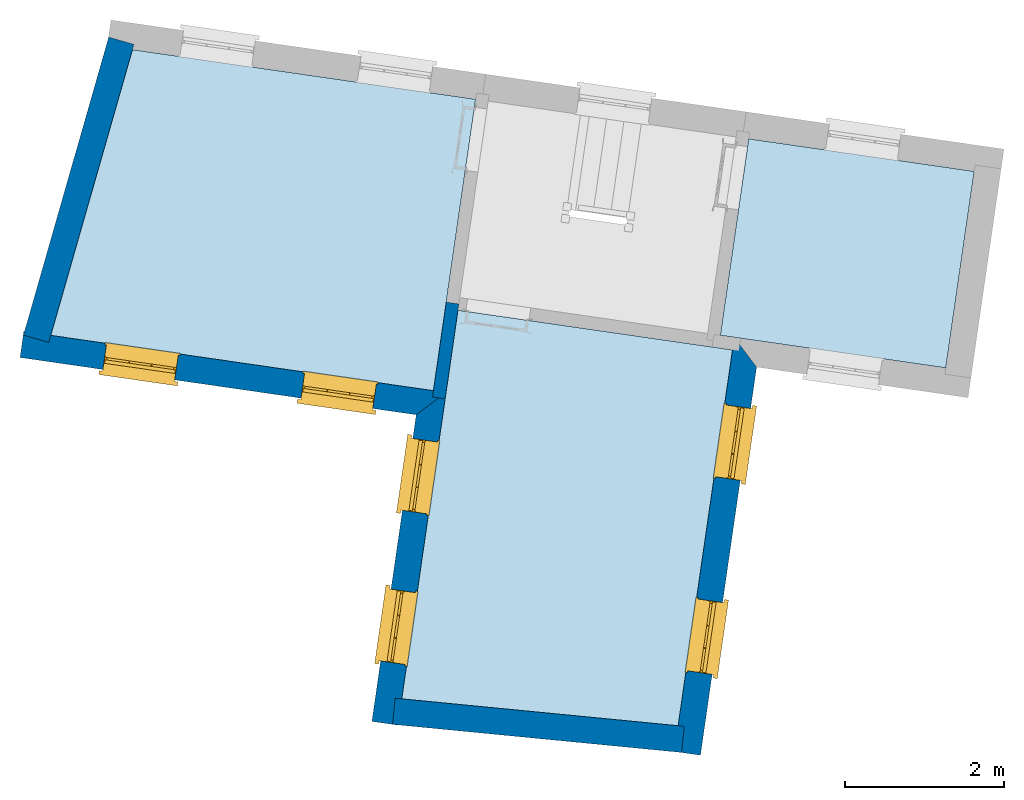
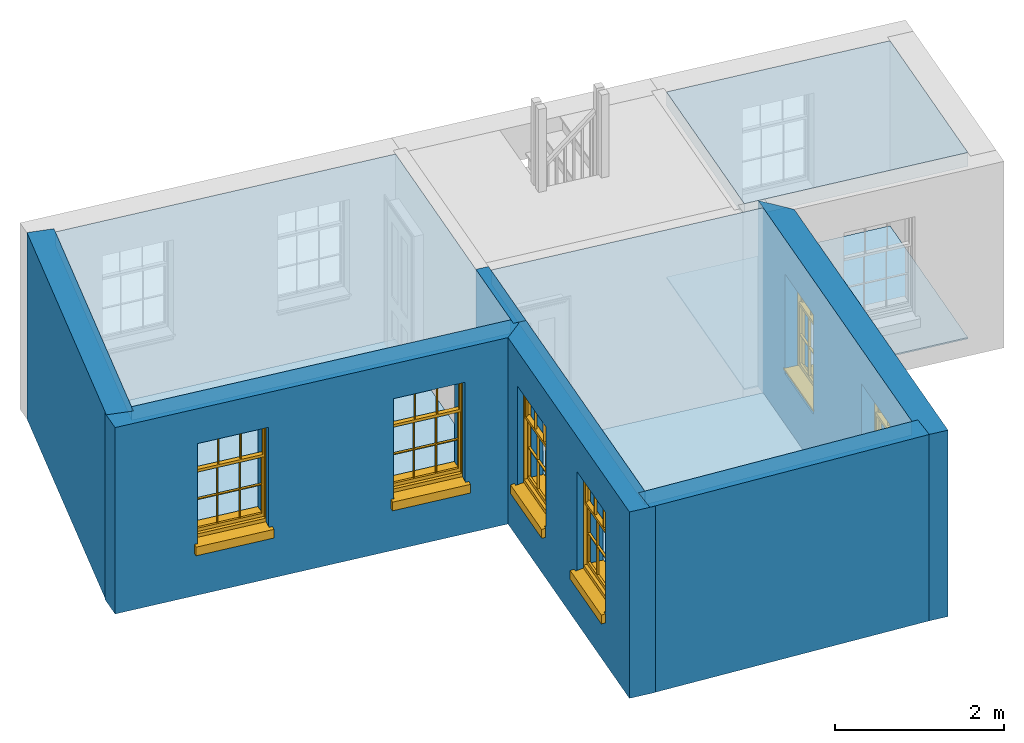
# One storey, part 1 of 4: 6 slabs, 6 walls, 6 windows, 6 openings.
"""IFC4 building model written with IfcOpenShell, lengths in metres."""

from ifc_helpers import new_model, si_unit, frame, origin, origin_with_axes, place, context, subcontext, project, spatial, polyline, outline, extrude, faceted_brep, source, transform, mapped, material, layer, layer_set, layer_usage, type_object, type_shapes, element, fill, save


model = new_model("IFC4")

# Units and contexts
model_context = context("Model", 3, world=origin_with_axes())
body_context = subcontext(model_context, "Body", "Model", "MODEL_VIEW")
ifc_project = project(units=[si_unit("PLANEANGLEUNIT", "RADIAN"), si_unit("MASSUNIT", "GRAM", prefix="KILO"), si_unit("FORCEUNIT", "NEWTON", prefix="KILO"), si_unit("LENGTHUNIT", "METRE"), si_unit("AREAUNIT", "SQUARE_METRE"), si_unit("VOLUMEUNIT", "CUBIC_METRE")], contexts=[model_context, model_context])

# Sites, building, storey
site_1_placement = place(None, origin_with_axes())
site_1 = spatial("IfcSite", under=ifc_project, at=site_1_placement, Name="Tamar")
site_2_placement = place(site_1_placement, origin_with_axes())
site_2 = spatial("IfcSite", under=site_1, at=site_2_placement, Name="Site plot-30", CompositionType="ELEMENT")
building_placement = place(None, origin_with_axes())
building = spatial("IfcBuilding", under=site_2, at=building_placement, Name="Building plot-30", CompositionType="ELEMENT")
storey_placement = place(None, frame((0.0, 0.0, 28.3), z_axis=(0.0, 0.0, 1.0), x_axis=(1.0, 0.0, 0.0)))
storey = spatial("IfcBuildingStorey", under=building, at=storey_placement, Name="plot-30 1", CompositionType="ELEMENT", Elevation=28.3)

# Slabs
slab_1_placement = place(storey_placement, frame((289.361802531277, 260.474647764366, 2.5)))
element("IfcSlab", 1, at=slab_1_placement, inside=storey, Name="My Slab", ObjectType="Slab", PredefinedType="FLOOR", context=body_context, shape_type="SweptSolid", body=[
    extrude(outline(polyline([(0.0, 0.0), (2.82705422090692, -0.408814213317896), (3.18333463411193, 2.05495542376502), (0.356280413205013, 2.46376963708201), (0.0, 0.0)])), origin_with_axes(), (0.0, 0.0, 1.0), 0.2),
])
slab_2_placement = place(storey_placement, frame((289.361802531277, 260.474647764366, 0.0)))
element("IfcSlab", 2, at=slab_2_placement, inside=storey, Name="My Slab", ObjectType="Slab", PredefinedType="FLOOR", context=body_context, shape_type="SweptSolid", body=[
    extrude(outline(polyline([(0.0, 0.0), (2.82705422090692, -0.408814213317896), (3.18333463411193, 2.05495542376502), (0.356280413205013, 2.46376963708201), (0.0, 0.0)])), origin_with_axes(), (0.0, 0.0, 1.0), 0.02),
])
slab_3_placement = place(storey_placement, frame((285.367224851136, 255.915943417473, 2.5)))
element("IfcSlab", 3, at=slab_3_placement, inside=storey, Name="My Slab", ObjectType="Slab", PredefinedType="FLOOR", context=body_context, shape_type="SweptSolid", body=[
    extrude(outline(polyline([(0.0, 0.0), (3.46581022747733, -0.337085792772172), (4.14721019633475, 4.37496822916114), (0.704643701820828, 4.87279034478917), (0.0, 0.0)])), origin_with_axes(), (0.0, 0.0, 1.0), 0.2),
])
slab_4_placement = place(storey_placement, frame((285.367224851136, 255.915943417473, 0.0)))
element("IfcSlab", 4, at=slab_4_placement, inside=storey, Name="My Slab", ObjectType="Slab", PredefinedType="FLOOR", context=body_context, shape_type="SweptSolid", body=[
    extrude(outline(polyline([(0.0, 0.0), (3.46581022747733, -0.337085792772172), (4.14721019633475, 4.37496822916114), (0.704643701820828, 4.87279034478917), (0.0, 0.0)])), origin_with_axes(), (0.0, 0.0, 1.0), 0.02),
])
slab_5_placement = place(storey_placement, frame((285.764302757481, 259.77978754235, 2.5)))
element("IfcSlab", 5, at=slab_5_placement, inside=storey, Name="My Slab", ObjectType="Slab", PredefinedType="FLOOR", context=body_context, shape_type="SweptSolid", body=[
    extrude(outline(polyline([(0.0, 0.0), (0.528392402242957, 3.6539677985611), (-3.77388996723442, 4.2761115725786), (-4.79887291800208, 0.693954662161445), (0.0, 0.0)])), origin_with_axes(), (0.0, 0.0, 1.0), 0.2),
])
slab_6_placement = place(storey_placement, frame((285.764302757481, 259.77978754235, 0.0)))
element("IfcSlab", 6, at=slab_6_placement, inside=storey, Name="My Slab", ObjectType="Slab", PredefinedType="FLOOR", context=body_context, shape_type="SweptSolid", body=[
    extrude(outline(polyline([(0.0, 0.0), (0.528392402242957, 3.6539677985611), (-3.77388996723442, 4.2761115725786), (-4.79887291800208, 0.693954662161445), (0.0, 0.0)])), origin_with_axes(), (0.0, 0.0, 1.0), 0.02),
])

# Wall, openings, windows
ifc_material_1 = material(Name="Masonry")
ifc_layer_1 = layer(ifc_material_1, 0.33, ventilated=False)
ifc_layer_set_1 = layer_set([ifc_layer_1], Name="exterior_0.08_0.25")
ifc_layer_usage_1 = layer_usage(ifc_layer_set_1, "AXIS2", "POSITIVE", -0.25)
wall_type_1 = type_object("IfcWallType", Name="exterior_0.08_0.25", PredefinedType="SOLIDWALL", material=ifc_layer_set_1)
wall_1_placement = place(storey_placement, frame((288.901284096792, 255.491842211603, 0.0), z_axis=(0.0, 0.0, 1.0), x_axis=(0.143119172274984, 0.989705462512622, 0.0)))
wall_1 = element("IfcWall", 7, at=wall_1_placement, inside=storey, type_object=wall_type_1, material=ifc_layer_usage_1, Name="exterior", context=body_context, shape_type="SweptSolid", body=[
    extrude(outline(polyline([(-0.250000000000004, 0.0800000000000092), (-0.249999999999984, -0.249999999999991), (4.66741889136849, -0.249999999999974), (4.9974188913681, 0.0800000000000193), (-0.250000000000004, 0.0800000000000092)])), origin_with_axes(), (0.0, 0.0, 1.0), 2.7),
])
opening_1_placement = place(wall_1_placement, frame((0.774354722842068, 0.0, 0.75)))
opening_1 = element("IfcOpeningElement", 8, at=opening_1_placement, cuts=wall_1, Name="My Opening", ObjectType="Opening", context=body_context, shape_type="SweptSolid", body=[
    extrude(outline(polyline([(0.0, -0.270000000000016), (0.909999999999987, -0.269999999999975), (0.909999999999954, 1.10000000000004), (-3.33066907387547e-14, 1.1), (0.0, -0.270000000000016)])), origin_with_axes(), (0.0, 0.0, 1.0), 1.445),
])
opening_2_placement = place(wall_1_placement, frame((3.23306416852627, 0.0, 0.75)))
opening_2 = element("IfcOpeningElement", 9, at=opening_2_placement, cuts=wall_1, Name="My Opening", ObjectType="Opening", context=body_context, shape_type="SweptSolid", body=[
    extrude(outline(polyline([(0.0, -0.270000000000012), (0.909999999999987, -0.269999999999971), (0.909999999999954, 1.10000000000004), (-3.37507799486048e-14, 1.1), (0.0, -0.270000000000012)])), origin_with_axes(), (0.0, 0.0, 1.0), 1.445),
])
window_type = type_object("IfcWindowType", Name="sash_shorter", PartitioningType="DOUBLE_PANEL_HORIZONTAL", PredefinedType="NOTDEFINED")
shared_shape = source(origin(), body_context, "Body", "Brep", [
    faceted_brep([(0.876875, 0.145, 0.999097), (0.876875, 0.145, 1.411875), (0.9, 0.145, 1.435), (0.033125, 0.145, 1.411875), (0.033125, 0.145, 0.999097), (0.01, 0.145, 1.435), (0.033125, 0.115, 1.411875), (0.01, 0.115, 1.435), (0.033125, 0.115, 0.999097), (0.876875, 0.115, 1.411875), (0.876875, 0.115, 0.999097), (0.9, 0.115, 1.435), (0.033125, 0.145, 0.960972), (0.01, 0.145, 0.960972), (0.033125, 0.145, 0.548195), (0.876875, 0.145, 0.960972), (0.876875, 0.145, 0.548195), (0.9, 0.145, 0.960972), (0.876875, 0.145, 0.538195), (0.876875, 0.145, 0.125417), (0.9, 0.145, 0.077167), (0.033125, 0.145, 0.125417), (0.033125, 0.145, 0.538195), (0.01, 0.145, 0.077167), (0.9, 0.115, 0.960972), (0.01, 0.115, 0.960972), (-0.0425, 0.0, 0.01), (-0.0425, -0.05, 0.001667), (0.0, 0.0, 0.01), (0.9525, 0.0, 0.01), (0.91, 0.0, 0.01), (0.9525, -0.05, 0.001667), (-0.02, 0.33, 0.077167), (0.0, 0.33, 0.077167), (-0.02, 0.36, 0.077167), (0.0, 0.19, 0.077167), (0.01, 0.19, 0.077167), (0.91, 0.19, 0.077167), (0.91, 0.33, 0.077167), (0.9, 0.19, 0.077167), (0.93, 0.33, 0.077167), (0.93, 0.36, 0.077167), (0.01, 0.145, 0.999097), (0.01, 0.175, 0.999097), (0.9, 0.145, 0.999097), (0.9, 0.175, 0.999097), (0.876875, 0.175, 0.125417), (0.876875, 0.175, 0.538195), (0.9, 0.175, 0.077167), (0.876875, 0.175, 0.548195), (0.876875, 0.175, 0.960972), (0.033125, 0.175, 0.125417), (0.01, 0.175, 0.077167), (0.033125, 0.175, 0.538195), (0.033125, 0.175, 0.960972), (0.033125, 0.175, 0.548195), (-0.02, 0.33, 0.052167), (-0.02, 0.36, 0.052167), (0.93, 0.36, 0.052167), (0.93, 0.33, 0.052167), (0.91, 0.33, 0.052167), (0.0, 0.33, 0.052167), (0.91, 0.1, 0.026667), (0.0, 0.1, 0.026667), (-0.0425, -0.05, -0.123333), (0.9525, -0.05, -0.123333), (-0.0425, 0.0, -0.123333), (0.9525, 0.0, -0.123333), (0.01, 0.19, 1.435), (0.9, 0.19, 1.435), (0.0, 0.19, 1.445), (0.91, 0.19, 1.445), (0.01, 0.1, 0.077167), (0.9, 0.1, 0.077167), (0.592292, 0.145, 0.125417), (0.592292, 0.175, 0.125417), (0.317708, 0.175, 0.125417), (0.317708, 0.145, 0.125417), (0.592292, 0.145, 0.548195), (0.317708, 0.145, 0.548195), (0.317708, 0.145, 0.538195), (0.592292, 0.145, 0.538195), (0.592292, 0.175, 0.548195), (0.317708, 0.175, 0.548195), (0.602292, 0.175, 0.548195), (0.602292, 0.145, 0.548195), (0.317708, 0.175, 0.538195), (0.307708, 0.175, 0.125417), (0.307708, 0.175, 0.538195), (0.602292, 0.175, 0.538195), (0.602292, 0.175, 0.125417), (0.592292, 0.175, 0.538195), (0.307708, 0.175, 0.548195), (0.317708, 0.175, 0.960972), (0.307708, 0.175, 0.960972), (0.602292, 0.175, 0.960972), (0.592292, 0.175, 0.960972), (0.307708, 0.145, 0.538195), (0.307708, 0.145, 0.125417), (0.307708, 0.145, 0.548195), (0.307708, 0.145, 0.960972), (0.592292, 0.145, 0.960972), (0.317708, 0.145, 0.960972), (0.602292, 0.145, 0.960972), (0.602292, 0.145, 0.538195), (0.602292, 0.145, 0.125417), (0.317708, 0.115, 1.411875), (0.307708, 0.115, 1.411875), (0.307708, 0.115, 0.999097), (0.317708, 0.115, 0.999097), (0.602292, 0.115, 1.411875), (0.592292, 0.115, 1.411875), (0.592292, 0.115, 0.999097), (0.602292, 0.115, 0.999097), (0.317708, 0.145, 0.999097), (0.307708, 0.145, 0.999097), (0.307708, 0.145, 1.411875), (0.317708, 0.145, 1.411875), (0.602292, 0.145, 0.999097), (0.592292, 0.145, 0.999097), (0.592292, 0.145, 1.411875), (0.602292, 0.145, 1.411875), (0.91, 0.1, 1.445), (0.9, 0.1, 1.435), (0.01, 0.1, 1.435), (0.0, 0.1, 1.445), (0.91, 0.0, 0.0), (0.0, 0.0, 0.0), (0.91, 0.33, 0.0), (0.0, 0.33, 0.0)], [[[0, 1, 2]], [[3, 4, 5]], [[6, 7, 8]], [[9, 10, 11]], [[12, 13, 14]], [[15, 16, 17]], [[18, 19, 20]], [[21, 22, 23]], [[24, 15, 17]], [[13, 12, 25]], [[26, 27, 28]], [[29, 30, 31]], [[32, 33, 34]], [[35, 36, 33]], [[37, 38, 39]], [[40, 41, 38]], [[42, 4, 43]], [[44, 45, 0]], [[46, 47, 48]], [[49, 50, 45]], [[51, 52, 53]], [[54, 55, 43]], [[38, 33, 36, 39]], [[41, 34, 33, 38]], [[56, 32, 34, 57]], [[57, 34, 41, 58]], [[58, 41, 40, 59]], [[57, 58, 60, 61]], [[52, 48, 39, 36]], [[62, 63, 28, 30]], [[27, 31, 30, 28]], [[27, 64, 65, 31]], [[66, 67, 65, 64]], [[2, 5, 68, 69]], [[68, 70, 71, 69]], [[20, 23, 72, 73]], [[73, 72, 63, 62]], [[74, 75, 76, 77]], [[78, 79, 80, 81]], [[78, 82, 83, 79]], [[16, 49, 84, 85]], [[86, 76, 87, 88]], [[89, 90, 75, 91]], [[92, 88, 53, 55]], [[82, 91, 86, 83]], [[93, 83, 92, 94]], [[95, 84, 82, 96]], [[89, 84, 49, 47]], [[97, 88, 87, 98]], [[22, 53, 88, 97]], [[81, 91, 75, 74]], [[80, 86, 91, 81]], [[77, 76, 86, 80]], [[99, 92, 55, 14]], [[100, 94, 92, 99]], [[101, 96, 82, 78]], [[79, 83, 93, 102]], [[85, 84, 95, 103]], [[104, 89, 47, 18]], [[105, 90, 89, 104]], [[104, 18, 16, 85]], [[80, 97, 98, 77]], [[104, 81, 74, 105]], [[103, 101, 78, 85]], [[99, 14, 22, 97]], [[102, 100, 99, 79]], [[106, 107, 108, 109]], [[110, 111, 112, 113]], [[114, 115, 116, 117]], [[118, 119, 120, 121]], [[107, 116, 115, 108]], [[111, 120, 119, 112]], [[109, 114, 117, 106]], [[113, 118, 121, 110]], [[85, 78, 81, 104]], [[84, 89, 91, 82]], [[83, 86, 88, 92]], [[79, 99, 97, 80]], [[109, 112, 119, 114]], [[102, 93, 96, 101]], [[106, 117, 120, 111]], [[98, 87, 51, 21]], [[6, 3, 116, 107]], [[110, 121, 1, 9]], [[19, 46, 90, 105]], [[26, 66, 64, 27]], [[29, 31, 65, 67]], [[25, 24, 112, 109]], [[11, 7, 106, 111]], [[75, 48, 52, 76]], [[43, 45, 96, 93]], [[45, 43, 114, 119]], [[5, 2, 120, 117]], [[24, 25, 102, 101]], [[42, 5, 4]], [[2, 44, 0]], [[49, 45, 48, 47]], [[52, 43, 55, 53]], [[14, 13, 23, 22]], [[20, 17, 16, 18]], [[24, 11, 10]], [[25, 8, 7]], [[8, 4, 3, 6]], [[9, 1, 0, 10]], [[15, 50, 49, 16]], [[18, 47, 46, 19]], [[21, 51, 53, 22]], [[14, 55, 54, 12]], [[44, 2, 69, 45]], [[68, 5, 42, 43]], [[36, 35, 70, 68]], [[39, 69, 71, 37]], [[62, 122, 123, 73]], [[63, 72, 124, 125]], [[8, 108, 115, 4]], [[113, 10, 0, 118]], [[94, 100, 12, 54]], [[17, 20, 73, 24]], [[72, 23, 13, 25]], [[52, 36, 68, 43]], [[69, 39, 48, 45]], [[11, 24, 73, 123]], [[7, 124, 72, 25]], [[23, 77, 98]], [[98, 21, 23]], [[105, 74, 20]], [[20, 19, 105]], [[20, 74, 77, 23]], [[113, 112, 24]], [[24, 10, 113]], [[25, 109, 108]], [[108, 8, 25]], [[110, 9, 11]], [[11, 111, 110]], [[7, 6, 107]], [[107, 106, 7]], [[5, 117, 116]], [[116, 3, 5]], [[121, 120, 2]], [[2, 1, 121]], [[11, 123, 124, 7]], [[122, 125, 124, 123]], [[43, 93, 94]], [[94, 54, 43]], [[96, 45, 95]], [[50, 95, 45]], [[15, 103, 95, 50]], [[48, 75, 90]], [[90, 46, 48]], [[87, 76, 52]], [[52, 51, 87]], [[103, 15, 24]], [[24, 101, 103]], [[100, 102, 25]], [[25, 12, 100]], [[115, 114, 43]], [[43, 4, 115]], [[118, 0, 45]], [[45, 119, 118]], [[71, 70, 125, 122]], [[70, 35, 63, 125]], [[122, 62, 37, 71]], [[126, 67, 66, 127]], [[60, 58, 59]], [[38, 60, 59, 40]], [[61, 56, 57]], [[32, 56, 61, 33]], [[61, 60, 128, 129]], [[62, 60, 38, 37]], [[126, 128, 60, 62]], [[33, 61, 63, 35]], [[61, 129, 127, 63]], [[128, 126, 127, 129]], [[28, 127, 66, 26]], [[63, 127, 28]], [[29, 67, 126, 30]], [[30, 126, 62]]]),
])
type_shapes(window_type, [shared_shape])
window_1_placement = place(storey_placement, frame((289.279329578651, 256.219583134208, 0.75), z_axis=(0.0, 0.0, 1.0), x_axis=(0.130238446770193, 0.900631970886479, 0.0)))
window_1 = element("IfcWindow", 10, at=window_1_placement, inside=storey, type_object=window_type, Name="bedroom sahn window", OverallHeight=1.445, OverallWidth=0.91, context=body_context, shape_type="MappedRepresentation", body=[
    mapped(shared_shape, transform((0.0, 0.0, 0.0), scale=1.0)),
])
fill(opening_1, window_1)
window_2_placement = place(storey_placement, frame((289.631218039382, 258.652981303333, 0.75), z_axis=(0.0, 0.0, 1.0), x_axis=(0.130238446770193, 0.900631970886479, 0.0)))
window_2 = element("IfcWindow", 11, at=window_2_placement, inside=storey, type_object=window_type, Name="bedroom sahn window", OverallHeight=1.445, OverallWidth=0.91, context=body_context, shape_type="MappedRepresentation", body=[
    mapped(shared_shape, transform((0.0, 0.0, 0.0), scale=1.0)),
])
fill(opening_2, window_2)

wall_2_placement = place(storey_placement, frame((280.863315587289, 260.407676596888, 0.0), z_axis=(0.0, 0.0, 1.0), x_axis=(0.989705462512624, -0.143119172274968, 0.0)))
wall_2 = element("IfcWall", 12, at=wall_2_placement, inside=storey, type_object=wall_type_1, material=ifc_layer_usage_1, Name="exterior", context=body_context, shape_type="SweptSolid", body=[
    extrude(outline(polyline([(-0.249999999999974, 0.0800000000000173), (-0.249999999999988, -0.249999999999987), (4.77039673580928, -0.249999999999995), (5.10039673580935, 0.0800000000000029), (-0.249999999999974, 0.0800000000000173)])), origin_with_axes(), (0.0, 0.0, 1.0), 2.7),
])
opening_3_placement = place(wall_2_placement, frame((0.800099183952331, 0.0, 0.75)))
opening_3 = element("IfcOpeningElement", 13, at=opening_3_placement, cuts=wall_2, Name="My Opening", ObjectType="Opening", context=body_context, shape_type="SweptSolid", body=[
    extrude(outline(polyline([(0.0, -0.269999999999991), (0.909999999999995, -0.27000000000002), (0.909999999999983, 1.09999999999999), (-1.18793863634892e-14, 1.10000000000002), (0.0, -0.269999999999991)])), origin_with_axes(), (0.0, 0.0, 1.0), 1.445),
])
opening_4_placement = place(wall_2_placement, frame((3.31029755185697, 0.0, 0.75)))
opening_4 = element("IfcOpeningElement", 14, at=opening_4_placement, cuts=wall_2, Name="My Opening", ObjectType="Opening", context=body_context, shape_type="SweptSolid", body=[
    extrude(outline(polyline([(0.0, -0.270000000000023), (0.909999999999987, -0.269999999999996), (0.909999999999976, 1.10000000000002), (-1.15463194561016e-14, 1.09999999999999), (0.0, -0.270000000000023)])), origin_with_axes(), (0.0, 0.0, 1.0), 1.445),
])
window_3_placement = place(storey_placement, frame((281.616535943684, 260.025946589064, 0.75), z_axis=(0.0, 0.0, 1.0), x_axis=(0.900631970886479, -0.13023844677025, 0.0)))
window_3 = element("IfcWindow", 15, at=window_3_placement, inside=storey, type_object=window_type, Name="bedroom outside window", OverallHeight=1.445, OverallWidth=0.91, context=body_context, shape_type="MappedRepresentation", body=[
    mapped(shared_shape, transform((0.0, 0.0, 0.0), scale=1.0)),
])
fill(opening_3, window_3)
window_4_placement = place(storey_placement, frame((284.10089298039, 259.666689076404, 0.75), z_axis=(0.0, 0.0, 1.0), x_axis=(0.900631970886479, -0.130238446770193, 0.0)))
window_4 = element("IfcWindow", 16, at=window_4_placement, inside=storey, type_object=window_type, Name="bedroom outside window", OverallHeight=1.445, OverallWidth=0.91, context=body_context, shape_type="MappedRepresentation", body=[
    mapped(shared_shape, transform((0.0, 0.0, 0.0), scale=1.0)),
])
fill(opening_4, window_4)

wall_3_placement = place(storey_placement, frame((285.8320296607, 259.689161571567, 0.0), z_axis=(0.0, 0.0, 1.0), x_axis=(-0.143119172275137, -0.9897054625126, 0.0)))
wall_3 = element("IfcWall", 17, at=wall_3_placement, inside=storey, type_object=wall_type_1, material=ifc_layer_usage_1, Name="exterior", context=body_context, shape_type="SweptSolid", body=[
    extrude(outline(polyline([(-0.0800000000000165, 0.0800000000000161), (0.250000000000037, -0.250000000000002), (4.13471951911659, -0.250000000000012), (4.1347195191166, 0.080000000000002), (-0.0800000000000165, 0.0800000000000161)])), origin_with_axes(), (0.0, 0.0, 1.0), 2.7),
])
opening_5_placement = place(wall_3_placement, frame((0.550000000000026, 0.0, 0.75)))
opening_5 = element("IfcOpeningElement", 18, at=opening_5_placement, cuts=wall_3, Name="My Opening", ObjectType="Opening", context=body_context, shape_type="SweptSolid", body=[
    extrude(outline(polyline([(0.0, -0.270000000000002), (0.910000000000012, -0.269999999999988), (0.91, 1.1), (-1.11022302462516e-14, 1.09999999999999), (0.0, -0.270000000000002)])), origin_with_axes(), (0.0, 0.0, 1.0), 1.445),
])
opening_6_placement = place(wall_3_placement, frame((2.45853963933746, 0.0, 0.75)))
opening_6 = element("IfcOpeningElement", 19, at=opening_6_placement, cuts=wall_3, Name="My Opening", ObjectType="Opening", context=body_context, shape_type="SweptSolid", body=[
    extrude(outline(polyline([(0.0, -0.270000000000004), (0.910000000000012, -0.269999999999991), (0.910000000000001, 1.1), (-1.15463194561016e-14, 1.09999999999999), (0.0, -0.270000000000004)])), origin_with_axes(), (0.0, 0.0, 1.0), 1.445),
])
window_5_placement = place(storey_placement, frame((285.48609364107, 259.183465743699, 0.75), z_axis=(0.0, 0.0, 1.0), x_axis=(-0.130238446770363, -0.900631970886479, 0.0)))
window_5 = element("IfcWindow", 20, at=window_5_placement, inside=storey, type_object=window_type, Name="bedroom outside window", OverallHeight=1.445, OverallWidth=0.91, context=body_context, shape_type="MappedRepresentation", body=[
    mapped(shared_shape, transform((0.0, 0.0, 0.0), scale=1.0)),
])
fill(opening_5, window_5)
window_6_placement = place(storey_placement, frame((285.212945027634, 257.294573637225, 0.75), z_axis=(0.0, 0.0, 1.0), x_axis=(-0.130238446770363, -0.900631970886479, 0.0)))
window_6 = element("IfcWindow", 21, at=window_6_placement, inside=storey, type_object=window_type, Name="bedroom outside window", OverallHeight=1.445, OverallWidth=0.91, context=body_context, shape_type="MappedRepresentation", body=[
    mapped(shared_shape, transform((0.0, 0.0, 0.0), scale=1.0)),
])
fill(opening_6, window_6)

# Walls
ifc_material_2 = material(Name="Masonry")
ifc_layer_2 = layer(ifc_material_2, 0.33, ventilated=False)
ifc_layer_set_2 = layer_set([ifc_layer_2], Name="party_0.08_0.25")
ifc_layer_usage_2 = layer_usage(ifc_layer_set_2, "AXIS2", "POSITIVE", -0.25)
wall_type_2 = type_object("IfcWallType", Name="party_0.08_0.25", PredefinedType="SOLIDWALL", material=ifc_layer_set_2)
wall_4_placement = place(storey_placement, frame((285.276051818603, 255.844433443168, 0.0), z_axis=(0.0, 0.0, 1.0), x_axis=(0.995303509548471, -0.0968035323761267, 0.0)))
element("IfcWall", 22, at=wall_4_placement, inside=storey, type_object=wall_type_2, material=ifc_layer_usage_2, Name="party", context=body_context, shape_type="SweptSolid", body=[
    extrude(outline(polyline([(-2.27502325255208e-14, 0.0800000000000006), (1.97160455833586e-14, -0.249999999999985), (3.64233848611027, -0.249999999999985), (3.64233848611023, 0.0800000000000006), (-2.27502325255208e-14, 0.0800000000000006)])), origin_with_axes(), (0.0, 0.0, 1.0), 2.7),
])
wall_5_placement = place(storey_placement, frame((281.932718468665, 264.14507429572, 0.0), z_axis=(0.0, 0.0, 1.0), x_axis=(-0.275095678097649, -0.961416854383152, 0.0)))
element("IfcWall", 23, at=wall_5_placement, inside=storey, type_object=wall_type_2, material=ifc_layer_usage_2, Name="party", context=body_context, shape_type="SweptSolid", body=[
    extrude(outline(polyline([(1.14960965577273e-14, 0.080000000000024), (2.01370952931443e-15, -0.249999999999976), (3.88738525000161, -0.249999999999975), (3.88738525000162, 0.0800000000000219), (1.14960965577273e-14, 0.080000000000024)])), origin_with_axes(), (0.0, 0.0, 1.0), 2.7),
])
ifc_material_3 = material(Name="Masonry")
ifc_layer_3 = layer(ifc_material_3, 0.16, ventilated=False)
ifc_layer_set_3 = layer_set([ifc_layer_3], Name="interior_0.08_0.08")
ifc_layer_usage_3 = layer_usage(ifc_layer_set_3, "AXIS2", "POSITIVE", -0.08)
wall_type_3 = type_object("IfcWallType", Name="interior_0.08_0.08", PredefinedType="SOLIDWALL", material=ifc_layer_set_3)
wall_6_placement = place(storey_placement, frame((286.004141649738, 260.879359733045, 0.0), z_axis=(0.0, 0.0, 1.0), x_axis=(-0.14311917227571, -0.989705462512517, 0.0)))
element("IfcWall", 24, at=wall_6_placement, inside=storey, type_object=wall_type_3, material=ifc_layer_usage_3, Name="interior", context=body_context, shape_type="SweptSolid", body=[
    extrude(outline(polyline([(9.71973971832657e-15, 0.0800000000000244), (-9.76506402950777e-15, -0.0800000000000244), (1.20257814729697, -0.0800000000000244), (1.20257814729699, 0.0800000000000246), (9.71973971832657e-15, 0.0800000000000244)])), origin_with_axes(), (0.0, 0.0, 1.0), 2.7),
])

save(model, "model.ifc")
